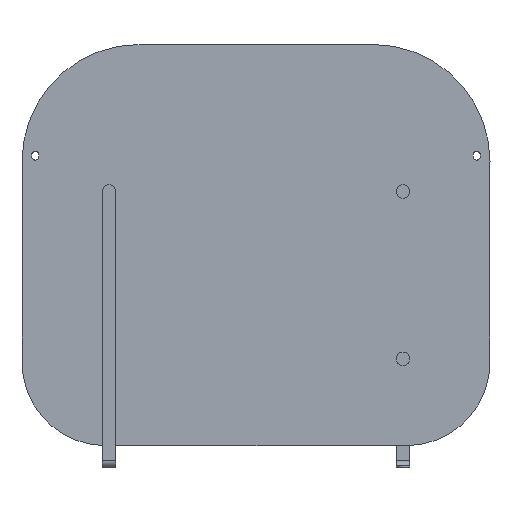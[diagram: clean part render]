
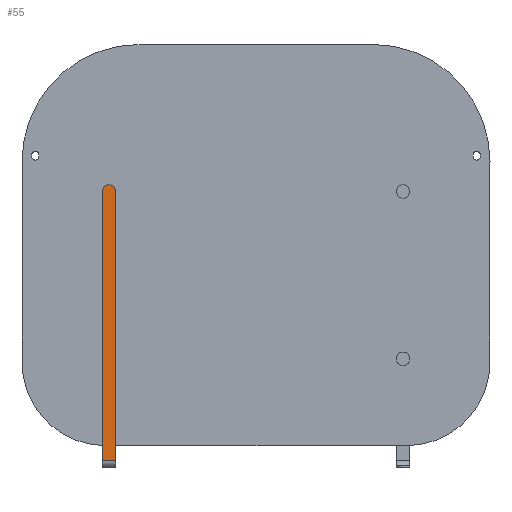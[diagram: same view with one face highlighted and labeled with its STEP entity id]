
A CAD part, top view. The second image highlights one B-rep face of the part: STEP entity #55.
In plain terms, the highlighted planar face has unit normal (0, 0, 1) as drawn and (0, 0, -1) by its records, which use the part's own axes.
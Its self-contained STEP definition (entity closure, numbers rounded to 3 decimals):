
#55 = ADVANCED_FACE ( 'NONE', ( #159 ), #4671, .F. ) ;
#132 = DIRECTION ( 'NONE',  ( 0., 0., 1. ) ) ;
#143 = LINE ( 'NONE', #1382, #4728 ) ;
#159 = FACE_OUTER_BOUND ( 'NONE', #4625, .T. ) ;
#186 = LINE ( 'NONE', #4349, #3974 ) ;
#649 = DIRECTION ( 'NONE',  ( 0., 1., 0. ) ) ;
#711 = LINE ( 'NONE', #3269, #4118 ) ;
#722 = VERTEX_POINT ( 'NONE', #4866 ) ;
#969 = CARTESIAN_POINT ( 'NONE',  ( 20., 825., -5. ) ) ;
#1150 = EDGE_CURVE ( 'NONE', #722, #3928, #186, .T. ) ;
#1382 = CARTESIAN_POINT ( 'NONE',  ( 0., 0., -5. ) ) ;
#1405 = CARTESIAN_POINT ( 'NONE',  ( 0., 20., -5. ) ) ;
#1468 = ORIENTED_EDGE ( 'NONE', *, *, #5143, .T. ) ;
#1719 = EDGE_CURVE ( 'NONE', #3928, #4738, #4982, .T. ) ;
#1720 = DIRECTION ( 'NONE',  ( 0., 0., 1. ) ) ;
#1837 = CARTESIAN_POINT ( 'NONE',  ( 40., 825., -5. ) ) ;
#1890 = ORIENTED_EDGE ( 'NONE', *, *, #1719, .F. ) ;
#2187 = CARTESIAN_POINT ( 'NONE',  ( 20., 825., -5. ) ) ;
#2614 = DIRECTION ( 'NONE',  ( 1., 0., 0. ) ) ;
#2685 = ORIENTED_EDGE ( 'NONE', *, *, #3612, .F. ) ;
#2754 = DIRECTION ( 'NONE',  ( -1., 0., 0. ) ) ;
#3269 = CARTESIAN_POINT ( 'NONE',  ( 40., 20., -5. ) ) ;
#3370 = DIRECTION ( 'NONE',  ( 1., 0., 0. ) ) ;
#3612 = EDGE_CURVE ( 'NONE', #4738, #3873, #143, .T. ) ;
#3816 = DIRECTION ( 'NONE',  ( 0., -1., 0. ) ) ;
#3873 = VERTEX_POINT ( 'NONE', #1405 ) ;
#3928 = VERTEX_POINT ( 'NONE', #1837 ) ;
#3974 = VECTOR ( 'NONE', #649, 1000. ) ;
#4077 = AXIS2_PLACEMENT_3D ( 'NONE', #969, #132, #2614 ) ;
#4118 = VECTOR ( 'NONE', #2754, 1000. ) ;
#4349 = CARTESIAN_POINT ( 'NONE',  ( 40., 0., -5. ) ) ;
#4625 = EDGE_LOOP ( 'NONE', ( #1468, #2685, #1890, #4759 ) ) ;
#4671 = PLANE ( 'NONE',  #4077 ) ;
#4728 = VECTOR ( 'NONE', #3816, 1000. ) ;
#4738 = VERTEX_POINT ( 'NONE', #5073 ) ;
#4759 = ORIENTED_EDGE ( 'NONE', *, *, #1150, .F. ) ;
#4866 = CARTESIAN_POINT ( 'NONE',  ( 40., 20., -5. ) ) ;
#4982 = CIRCLE ( 'NONE', #5251, 20. ) ;
#5073 = CARTESIAN_POINT ( 'NONE',  ( 0., 825., -5. ) ) ;
#5143 = EDGE_CURVE ( 'NONE', #722, #3873, #711, .T. ) ;
#5251 = AXIS2_PLACEMENT_3D ( 'NONE', #2187, #1720, #3370 ) ;
